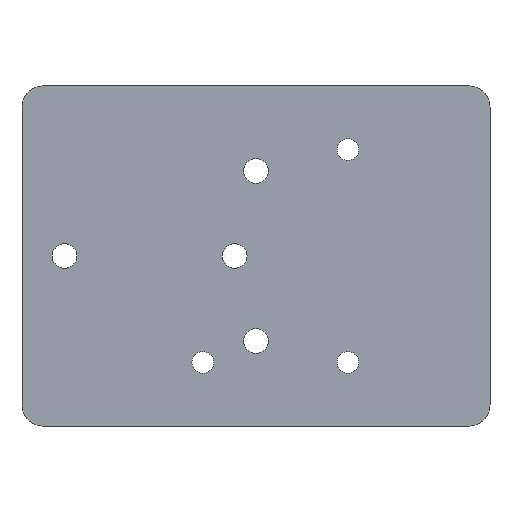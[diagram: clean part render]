
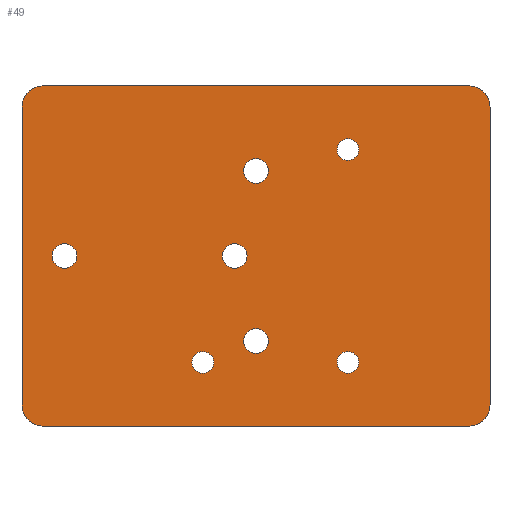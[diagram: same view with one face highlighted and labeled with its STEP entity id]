
A CAD part, front view. The second image highlights one B-rep face of the part: STEP entity #49.
In plain terms, the highlighted planar face has unit normal (0, -1, 0).
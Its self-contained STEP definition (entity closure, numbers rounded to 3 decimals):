
#49 = ADVANCED_FACE( '', ( #114, #115, #116, #117, #118, #119, #120, #121 ), #122, .T. );
#114 = FACE_BOUND( '', #217, .T. );
#115 = FACE_BOUND( '', #218, .T. );
#116 = FACE_BOUND( '', #219, .T. );
#117 = FACE_BOUND( '', #220, .T. );
#118 = FACE_BOUND( '', #221, .T. );
#119 = FACE_BOUND( '', #222, .T. );
#120 = FACE_BOUND( '', #223, .T. );
#121 = FACE_OUTER_BOUND( '', #224, .T. );
#122 = PLANE( '', #225 );
#217 = EDGE_LOOP( '', ( #316 ) );
#218 = EDGE_LOOP( '', ( #317 ) );
#219 = EDGE_LOOP( '', ( #318 ) );
#220 = EDGE_LOOP( '', ( #319 ) );
#221 = EDGE_LOOP( '', ( #320 ) );
#222 = EDGE_LOOP( '', ( #321 ) );
#223 = EDGE_LOOP( '', ( #322 ) );
#224 = EDGE_LOOP( '', ( #323, #324, #325, #326, #327, #328, #329, #330 ) );
#225 = AXIS2_PLACEMENT_3D( '', #331, #332, #333 );
#316 = ORIENTED_EDGE( '', *, *, #493, .F. );
#317 = ORIENTED_EDGE( '', *, *, #494, .F. );
#318 = ORIENTED_EDGE( '', *, *, #495, .F. );
#319 = ORIENTED_EDGE( '', *, *, #491, .F. );
#320 = ORIENTED_EDGE( '', *, *, #496, .F. );
#321 = ORIENTED_EDGE( '', *, *, #497, .F. );
#322 = ORIENTED_EDGE( '', *, *, #498, .F. );
#323 = ORIENTED_EDGE( '', *, *, #499, .T. );
#324 = ORIENTED_EDGE( '', *, *, #500, .T. );
#325 = ORIENTED_EDGE( '', *, *, #501, .T. );
#326 = ORIENTED_EDGE( '', *, *, #502, .T. );
#327 = ORIENTED_EDGE( '', *, *, #503, .T. );
#328 = ORIENTED_EDGE( '', *, *, #504, .T. );
#329 = ORIENTED_EDGE( '', *, *, #505, .T. );
#330 = ORIENTED_EDGE( '', *, *, #506, .T. );
#331 = CARTESIAN_POINT( '', ( 34.925, 0., 25.4 ) );
#332 = DIRECTION( '', ( 0., -1., 0. ) );
#333 = DIRECTION( '', ( 0., 0., -1. ) );
#491 = EDGE_CURVE( '', #559, #559, #560, .T. );
#493 = EDGE_CURVE( '', #562, #562, #563, .T. );
#494 = EDGE_CURVE( '', #564, #564, #565, .T. );
#495 = EDGE_CURVE( '', #566, #566, #567, .T. );
#496 = EDGE_CURVE( '', #568, #568, #569, .T. );
#497 = EDGE_CURVE( '', #570, #570, #571, .T. );
#498 = EDGE_CURVE( '', #572, #572, #573, .T. );
#499 = EDGE_CURVE( '', #574, #575, #576, .T. );
#500 = EDGE_CURVE( '', #575, #577, #578, .T. );
#501 = EDGE_CURVE( '', #577, #579, #580, .T. );
#502 = EDGE_CURVE( '', #579, #581, #582, .T. );
#503 = EDGE_CURVE( '', #581, #583, #584, .T. );
#504 = EDGE_CURVE( '', #583, #585, #586, .T. );
#505 = EDGE_CURVE( '', #585, #587, #588, .T. );
#506 = EDGE_CURVE( '', #587, #574, #589, .T. );
#559 = VERTEX_POINT( '', #662 );
#560 = CIRCLE( '', #663, 1.84 );
#562 = VERTEX_POINT( '', #665 );
#563 = CIRCLE( '', #666, 1.626 );
#564 = VERTEX_POINT( '', #667 );
#565 = CIRCLE( '', #668, 1.626 );
#566 = VERTEX_POINT( '', #669 );
#567 = CIRCLE( '', #670, 1.626 );
#568 = VERTEX_POINT( '', #671 );
#569 = CIRCLE( '', #672, 1.84 );
#570 = VERTEX_POINT( '', #673 );
#571 = CIRCLE( '', #674, 1.84 );
#572 = VERTEX_POINT( '', #675 );
#573 = CIRCLE( '', #676, 1.84 );
#574 = VERTEX_POINT( '', #677 );
#575 = VERTEX_POINT( '', #678 );
#576 = LINE( '', #679, #680 );
#577 = VERTEX_POINT( '', #681 );
#578 = CIRCLE( '', #682, 3.175 );
#579 = VERTEX_POINT( '', #683 );
#580 = LINE( '', #684, #685 );
#581 = VERTEX_POINT( '', #686 );
#582 = CIRCLE( '', #687, 3.175 );
#583 = VERTEX_POINT( '', #688 );
#584 = LINE( '', #689, #690 );
#585 = VERTEX_POINT( '', #691 );
#586 = CIRCLE( '', #692, 3.175 );
#587 = VERTEX_POINT( '', #693 );
#588 = LINE( '', #694, #695 );
#589 = CIRCLE( '', #696, 3.175 );
#662 = CARTESIAN_POINT( '', ( 0., 0., 10.86 ) );
#663 = AXIS2_PLACEMENT_3D( '', #781, #782, #783 );
#665 = CARTESIAN_POINT( '', ( -7.938, 0., -17.501 ) );
#666 = AXIS2_PLACEMENT_3D( '', #784, #785, #786 );
#667 = CARTESIAN_POINT( '', ( 13.716, 0., -17.501 ) );
#668 = AXIS2_PLACEMENT_3D( '', #787, #788, #789 );
#669 = CARTESIAN_POINT( '', ( 13.716, 0., 14.249 ) );
#670 = AXIS2_PLACEMENT_3D( '', #790, #791, #792 );
#671 = CARTESIAN_POINT( '', ( 0., 0., -14.54 ) );
#672 = AXIS2_PLACEMENT_3D( '', #793, #794, #795 );
#673 = CARTESIAN_POINT( '', ( -28.575, 0., -1.84 ) );
#674 = AXIS2_PLACEMENT_3D( '', #796, #797, #798 );
#675 = CARTESIAN_POINT( '', ( -3.175, 0., -1.84 ) );
#676 = AXIS2_PLACEMENT_3D( '', #799, #800, #801 );
#677 = CARTESIAN_POINT( '', ( 34.925, 0., -22.225 ) );
#678 = CARTESIAN_POINT( '', ( 34.925, 0., 22.225 ) );
#679 = CARTESIAN_POINT( '', ( 34.925, 0., -25.4 ) );
#680 = VECTOR( '', #802, 1000. );
#681 = CARTESIAN_POINT( '', ( 31.75, 0., 25.4 ) );
#682 = AXIS2_PLACEMENT_3D( '', #803, #804, #805 );
#683 = CARTESIAN_POINT( '', ( -31.75, 0., 25.4 ) );
#684 = CARTESIAN_POINT( '', ( 34.925, 0., 25.4 ) );
#685 = VECTOR( '', #806, 1000. );
#686 = CARTESIAN_POINT( '', ( -34.925, 0., 22.225 ) );
#687 = AXIS2_PLACEMENT_3D( '', #807, #808, #809 );
#688 = CARTESIAN_POINT( '', ( -34.925, 0., -22.225 ) );
#689 = CARTESIAN_POINT( '', ( -34.925, 0., 25.4 ) );
#690 = VECTOR( '', #810, 1000. );
#691 = CARTESIAN_POINT( '', ( -31.75, 0., -25.4 ) );
#692 = AXIS2_PLACEMENT_3D( '', #811, #812, #813 );
#693 = CARTESIAN_POINT( '', ( 31.75, 0., -25.4 ) );
#694 = CARTESIAN_POINT( '', ( -34.925, 0., -25.4 ) );
#695 = VECTOR( '', #814, 1000. );
#696 = AXIS2_PLACEMENT_3D( '', #815, #816, #817 );
#781 = CARTESIAN_POINT( '', ( 0., 0., 12.7 ) );
#782 = DIRECTION( '', ( 0., -1., 0. ) );
#783 = DIRECTION( '', ( 0., 0., -1. ) );
#784 = CARTESIAN_POINT( '', ( -7.938, 0., -15.875 ) );
#785 = DIRECTION( '', ( 0., -1., 0. ) );
#786 = DIRECTION( '', ( 0., 0., -1. ) );
#787 = CARTESIAN_POINT( '', ( 13.716, 0., -15.875 ) );
#788 = DIRECTION( '', ( 0., -1., 0. ) );
#789 = DIRECTION( '', ( 0., 0., -1. ) );
#790 = CARTESIAN_POINT( '', ( 13.716, 0., 15.875 ) );
#791 = DIRECTION( '', ( 0., -1., 0. ) );
#792 = DIRECTION( '', ( 0., 0., -1. ) );
#793 = CARTESIAN_POINT( '', ( 0., 0., -12.7 ) );
#794 = DIRECTION( '', ( 0., -1., 0. ) );
#795 = DIRECTION( '', ( 0., 0., -1. ) );
#796 = CARTESIAN_POINT( '', ( -28.575, 0., 0. ) );
#797 = DIRECTION( '', ( 0., -1., 0. ) );
#798 = DIRECTION( '', ( 0., 0., -1. ) );
#799 = CARTESIAN_POINT( '', ( -3.175, 0., 0. ) );
#800 = DIRECTION( '', ( 0., -1., 0. ) );
#801 = DIRECTION( '', ( 0., 0., -1. ) );
#802 = DIRECTION( '', ( 0., 0., 1. ) );
#803 = CARTESIAN_POINT( '', ( 31.75, 0., 22.225 ) );
#804 = DIRECTION( '', ( 0., -1., 0. ) );
#805 = DIRECTION( '', ( 0., 0., -1. ) );
#806 = DIRECTION( '', ( -1., 0., 0. ) );
#807 = CARTESIAN_POINT( '', ( -31.75, 0., 22.225 ) );
#808 = DIRECTION( '', ( 0., -1., 0. ) );
#809 = DIRECTION( '', ( 0., 0., -1. ) );
#810 = DIRECTION( '', ( 0., 0., -1. ) );
#811 = CARTESIAN_POINT( '', ( -31.75, 0., -22.225 ) );
#812 = DIRECTION( '', ( 0., -1., 0. ) );
#813 = DIRECTION( '', ( 0., 0., -1. ) );
#814 = DIRECTION( '', ( 1., 0., 0. ) );
#815 = CARTESIAN_POINT( '', ( 31.75, 0., -22.225 ) );
#816 = DIRECTION( '', ( 0., -1., 0. ) );
#817 = DIRECTION( '', ( 0., 0., -1. ) );
